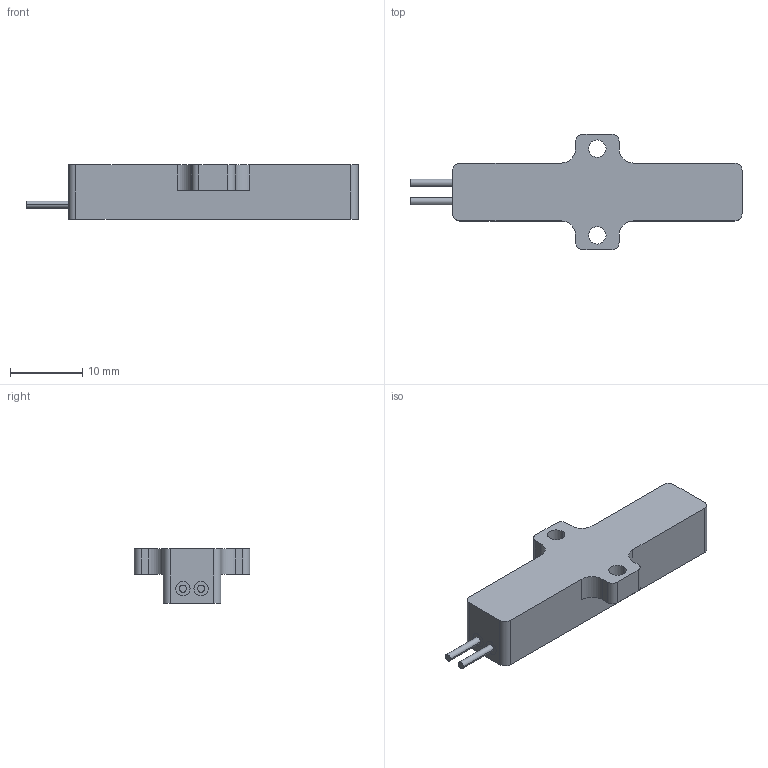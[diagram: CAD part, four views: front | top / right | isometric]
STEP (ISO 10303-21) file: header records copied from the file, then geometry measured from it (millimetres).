
FILE_DESCRIPTION (( 'STEP AP203' ), '1' );
FILE_NAME ('E1KF5.STEP', '2025-04-12T09:11:48', ( '' ), ( '' ), 'SwSTEP 2.0', 'SolidWorks 2022', '' );
FILE_SCHEMA (( 'CONFIG_CONTROL_DESIGN' ));
Length unit declared in the file: millimetre
Products named in the file (1): E1KF5
Bounding box: 45.9 x 16 x 7.5 mm (x, y, z)
Volume: 2538.1 mm3; surface area: 1570.5 mm2
Topology: 1 solids, 1 shells, 48 faces, 120 edges, 80 vertices
Faces by surface type: cylinder 28, plane 20
Entity records: 1545 total; most frequent: DIRECTION 274, CARTESIAN_POINT 249, ORIENTED_EDGE 240, EDGE_CURVE 120, AXIS2_PLACEMENT_3D 105, VERTEX_POINT 80, VECTOR 64, LINE 64
